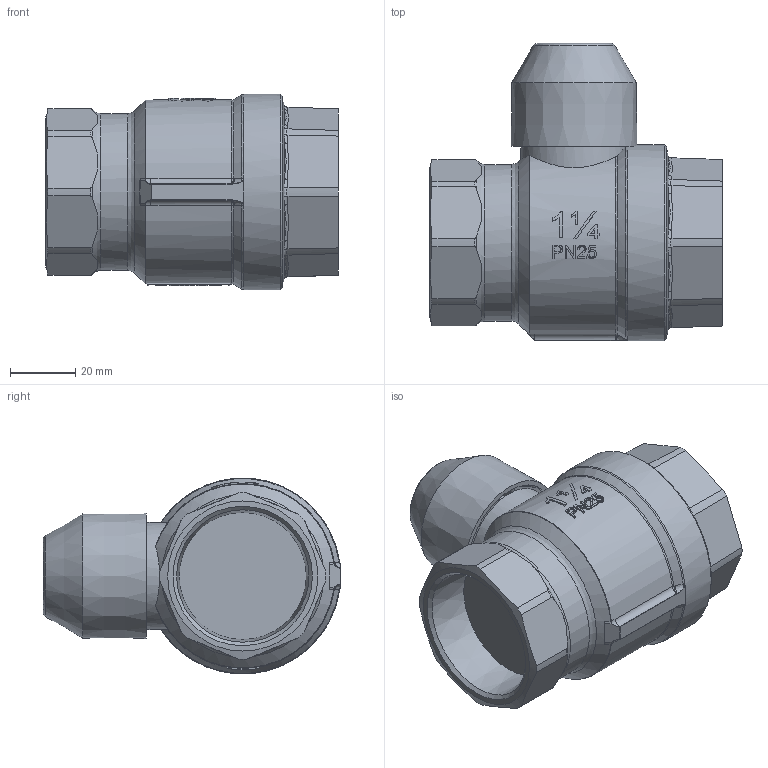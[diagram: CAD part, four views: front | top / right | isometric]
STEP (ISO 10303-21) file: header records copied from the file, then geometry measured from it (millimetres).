
FILE_DESCRIPTION((''),'2;1');
FILE_NAME('P:\Fastrack\53972_CRANE 3D\Ball Valves\Workplace\Crane Ball Valves\D171LS_1 1-4in\D171LS_1 1-4in.stp','2011-02-14T15:02:07',('btaylor'),(''),'Autodesk Inventor 2008','Autodesk Inventor 2008','');
FILE_SCHEMA(('AUTOMOTIVE_DESIGN { 1 0 10303 214 1 1 1 1 }'));
Length unit declared in the file: millimetre
Products named in the file (1): D171LS_1 1-4in
Bounding box: 89.63 x 91.1 x 60 mm (x, y, z)
Volume: 193242.2 mm3; surface area: 34944.6 mm2
Topology: 1 solids, 1 shells, 468 faces, 1235 edges, 792 vertices
Faces by surface type: plane 198, bspline 158, cylinder 68, cone 25, torus 19
Full cylindrical faces by diameter (mm): 14.2 x1, 17 x1, 18 x1, 21.5 x1, 23.5 x1, 24 x1, 32.798 x1, 48 x1, 60 x1
Entity records: 37114 total; most frequent: CARTESIAN_POINT 26544, ORIENTED_EDGE 2378, DIRECTION 1603, EDGE_CURVE 1189, VERTEX_POINT 780, AXIS2_PLACEMENT_3D 591, EDGE_LOOP 529, B_SPLINE_CURVE_WITH_KNOTS 471
